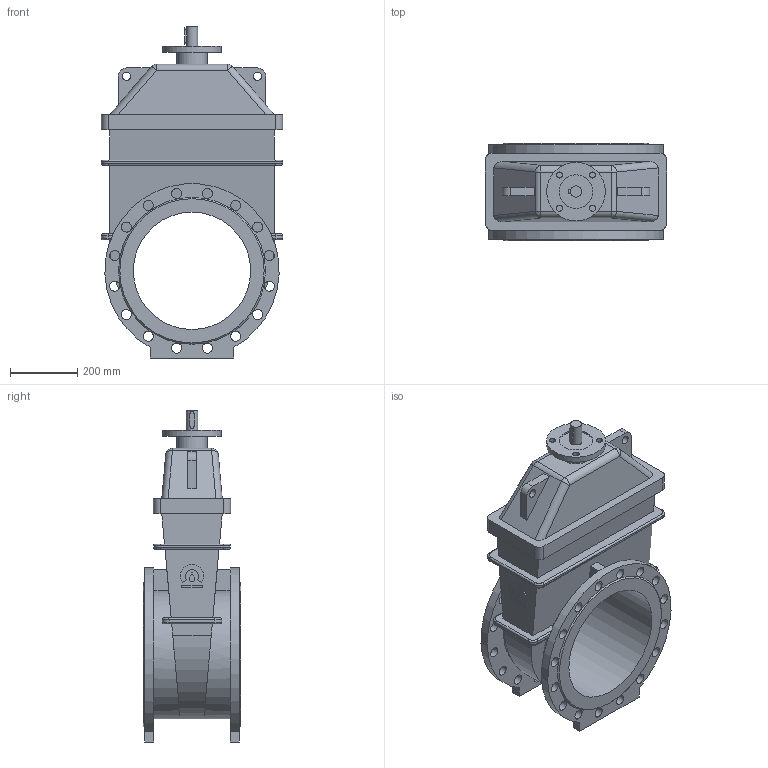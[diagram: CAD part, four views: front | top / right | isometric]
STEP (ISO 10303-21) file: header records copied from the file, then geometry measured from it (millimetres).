
FILE_DESCRIPTION(('STEP AP203'), '1');
FILE_NAME('Çàäâèæêà 47GVA DN350 PN10_PN16 áåç èñïîëíèò. ìåõ.', '', ('UNSPECIFIED'), ('UNSPECIFIED'), 'ASCON STEP Converter 1.6', 'ASCON Math Kernel', '');
FILE_SCHEMA(('CONFIG_CONTROL_DESIGN'));
Length unit declared in the file: millimetre
Bounding box: 540 x 290 x 990 mm (x, y, z)
Volume: 50440185.7 mm3; surface area: 2101415 mm2
Topology: 1 solids, 1 shells, 216 faces, 544 edges, 344 vertices
Faces by surface type: cylinder 100, plane 94, bspline 14, torus 6, cone 2
Full cylindrical faces by diameter (mm): 18 x4, 25 x2, 30 x32, 34 x1, 90 x1, 100 x1, 175 x1, 350 x1
Entity records: 9312 total; most frequent: CARTESIAN_POINT 2417, DIRECTION 1043, ORIENTED_EDGE 990, EDGE_CURVE 495, AXIS2_PLACEMENT_3D 391, EDGE_LOOP 357, VERTEX_POINT 344, FACE_BOUND 267
